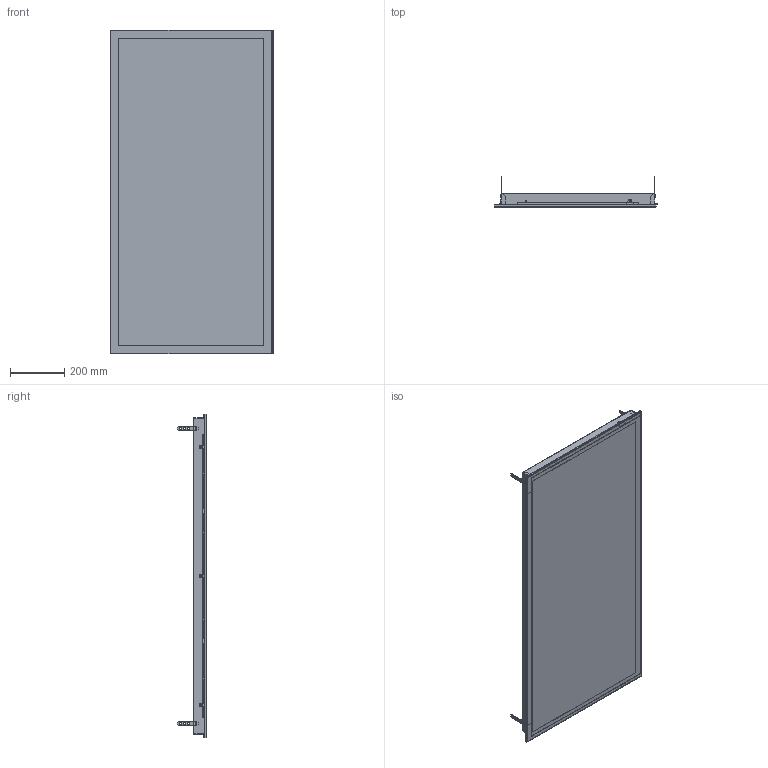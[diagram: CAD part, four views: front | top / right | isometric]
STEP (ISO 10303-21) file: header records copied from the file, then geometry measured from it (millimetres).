
FILE_DESCRIPTION(('STEP AP203'), '1');
FILE_NAME('ÄÊÏ008 02 004.00 ÑÁ - Ñâåòèëüíèê 1200õ600', '', ('UNSPECIFIED'), ('UNSPECIFIED'), 'ASCON STEP Converter 1.6', 'ASCON Math Kernel', '');
FILE_SCHEMA(('CONFIG_CONTROL_DESIGN'));
Length unit declared in the file: millimetre
Products named in the file (14): ДКП008 02 004.00; ДКП008 02 003.01; ДКП008 01 003.03; ДКП008 01 003.02; ДКП008 02 003.08; ДКП008 02 004.02; ДКП008 02 004.04; ДКП008 02 004.05; ДКП008 01 004.07
Assembly tree (25 placements, depth 3):
  ДКП008 02 004.00
    ДКП008 02 003.01
      ДКП008 02 003.01
      ДКП008 01 003.03  x4
      ДКП008 01 003.02  x2
      ДКП008 02 003.08  x2
    ДКП008 02 004.02
      ДКП008 02 004.04
      ДКП008 02 004.05
      ДКП008 01 004.07  x2
    (unnamed)
    (unnamed)  x4
    (unnamed)  x4
    (unnamed)
Bounding box: 605.4 x 110 x 1199 mm (x, y, z)
Volume: 2628385.9 mm3; surface area: 3495355.9 mm2
Topology: 23 solids, 23 shells, 659 faces, 1577 edges, 991 vertices
Faces by surface type: plane 386, cylinder 201, bspline 44, torus 18, cone 10
Full cylindrical faces by diameter (mm): 1.85 x4, 2.2 x5, 2.5 x10, 3.2 x4, 3.5 x85, 4.4 x5, 4.5 x4, 8 x12, 20 x1
Entity records: 15767 total; most frequent: CARTESIAN_POINT 3883, DIRECTION 2212, ORIENTED_EDGE 1996, EDGE_CURVE 998, AXIS2_PLACEMENT_3D 797, EDGE_LOOP 774, VERTEX_POINT 676, LINE 618
